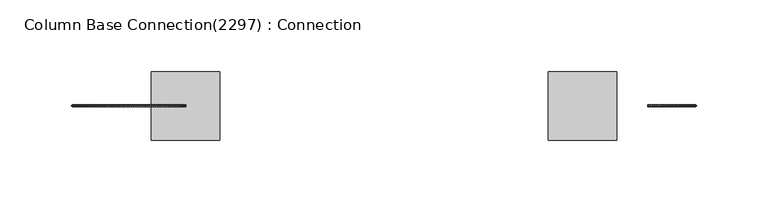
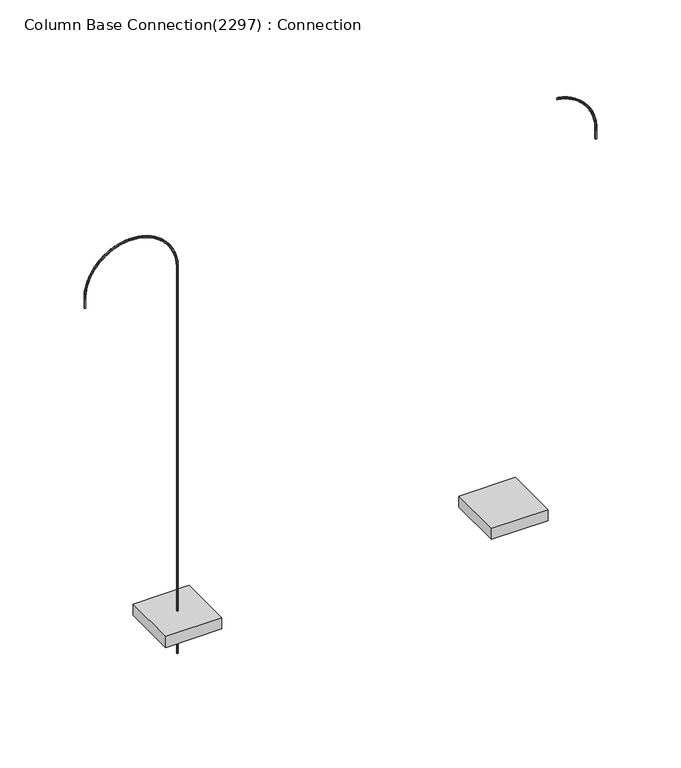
"""IFC4 building model written with IfcOpenShell, lengths in millimetres: fastener geometry, Column Base Connection(2297) : Connection."""

from ifc_helpers import new_model, si_unit, frame, origin, place, context, project, spatial, polyline, outline, extrude, source, transform, mapped, element, save


def column_base_connection_2297_connection_1b91c772(model_context):
    return source(origin(), model_context, "Body", "SweptSolid", [
        extrude(outline(polyline([(-163.0000027, 157.000001), (-115.0000027, 157.000001), (-115.0000027, 109.000001), (-163.0000027, 109.000001), (-163.0000027, 157.000001)])), frame((0.0, 0.0, -50.0), z_axis=(0.0, 0.0, 1.0), x_axis=(1.0, 0.0, 0.0)), (0.0, 0.0, 1.0), 10.0),
        extrude(outline(polyline([(-217.4575041, 132.3071807), (-218.2575041, 132.3071807), (-218.6575041, 133.000001), (-218.2575041, 133.6928213), (-217.4575041, 133.6928213), (-217.0575041, 133.000001), (-217.4575041, 132.3071807)])), frame((0.0, 0.0, 260.4), z_axis=(0.0, 0.0, 1.0), x_axis=(1.0, 0.0, 0.0)), (0.0, 0.0, 1.0), 8.0),
        extrude(outline(polyline([(-217.4575041, 132.3071807), (-218.2575041, 132.3071807), (-218.6575041, 133.000001), (-218.2575041, 133.6928213), (-217.4575041, 133.6928213), (-217.0575041, 133.000001), (-217.4575041, 132.3071807)])), frame((0.0, 0.0, 268.3681696), z_axis=(0.0, 0.0, 1.0), x_axis=(1.0, 0.0, 0.0)), (0.0, 0.0, 1.0), 1.6),
        extrude(outline(polyline([(0.0, 0.0), (0.8000001, 0.0), (1.2, -0.6928203), (0.8000001, -1.3856406), (0.0, -1.3856406), (-0.3999999, -0.6928203), (0.0, 0.0)])), frame((-217.4590858, 132.3071807, 269.9204618), z_axis=(0.03975651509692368, 0.0, 0.999209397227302), x_axis=(-0.999209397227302, 0.0, 0.03975651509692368)), (0.0, 0.0, 1.0), 1.6),
        extrude(outline(polyline([(0.0, 0.0), (0.7999999, 0.0), (1.2, -0.6928203), (0.7999999, -1.3856406), (0.0, -1.3856406), (-0.4000001, -0.6928203), (0.0, 0.0)])), frame((-217.3989526, 132.3071807, 271.4715896), z_axis=(0.07945016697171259, 0.0, 0.996838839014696), x_axis=(-0.996838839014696, 0.0, 0.07945016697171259)), (0.0, 0.0, 1.0), 1.6),
        extrude(outline(polyline([(0.0, 0.0), (0.8, 0.0), (1.2, -0.6928203), (0.8, -1.3856406), (0.0, -1.3856406), (-0.4, -0.6928203), (0.0, 0.0)])), frame((-217.2771994, 132.3071807, 273.0191004), z_axis=(0.11901819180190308, 0.0, 0.9928920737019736), x_axis=(-0.9928920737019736, 0.0, 0.11901819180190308)), (0.0, 0.0, 1.0), 1.6),
        extrude(outline(polyline([(0.0, 0.0), (0.8, 0.0), (1.2000001, -0.6928203), (0.8, -1.3856406), (0.0, -1.3856406), (-0.4, -0.6928203), (0.0, 0.0)])), frame((-217.0940188, 132.3071807, 274.5605473), z_axis=(0.15839802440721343, 0.0, 0.9873753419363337), x_axis=(-0.9873753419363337, 0.0, 0.15839802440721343)), (0.0, 0.0, 1.0), 1.6),
        extrude(outline(polyline([(0.0, 0.0), (0.8, 0.0), (1.2, -0.6928203), (0.8, -1.3856406), (0.0, -1.3856406), (-0.4, -0.6928203), (0.0, 0.0)])), frame((-216.8497006, 132.3071807, 276.0934928), z_axis=(0.19752739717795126, 0.0, 0.9802973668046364), x_axis=(-0.9802973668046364, 0.0, 0.19752739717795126)), (0.0, 0.0, 1.0), 1.6),
        extrude(outline(polyline([(0.0, 0.0), (0.8, 0.0), (1.2, -0.6928203), (0.8, -1.3856406), (0.0, -1.3856406), (-0.4000001, -0.6928203), (0.0, 0.0)])), frame((-216.5446309, 132.3071807, 277.6155132), z_axis=(0.23634443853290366, 0.0, 0.9716693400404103), x_axis=(-0.9716693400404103, 0.0, 0.23634443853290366)), (0.0, 0.0, 1.0), 1.6),
        extrude(outline(polyline([(0.0, 0.0), (0.8, 0.0), (1.1999999, -0.6928203), (0.8, -1.3856406), (0.0, -1.3856406), (-0.4, -0.6928203), (0.0, 0.0)])), frame((-216.1792922, 132.3071807, 279.1242018), z_axis=(0.2747877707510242, 0.0, 0.9615049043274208), x_axis=(-0.9615049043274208, 0.0, 0.2747877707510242)), (0.0, 0.0, 1.0), 1.6),
        extrude(outline(polyline([(0.0, 0.0), (0.8, 0.0), (1.2, -0.6928203), (0.8, -1.3856406), (0.0, -1.3856406), (-0.4, -0.6928203), (0.0, 0.0)])), frame((-215.7542621, 132.3071807, 280.6171729), z_axis=(0.31279660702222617, 0.0, 0.949820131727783), x_axis=(-0.949820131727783, 0.0, 0.31279660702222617)), (0.0, 0.0, 1.0), 1.6),
        extrude(outline(polyline([(0.0, 0.0), (0.8, 0.0), (1.2, -0.6928203), (0.8, -1.3856406), (0.0, -1.3856406), (-0.4, -0.6928203), (0.0, 0.0)])), frame((-215.2702127, 132.3071807, 282.0920661), z_axis=(0.3503108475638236, 0.0, 0.9366334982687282), x_axis=(-0.9366334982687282, 0.0, 0.3503108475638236)), (0.0, 0.0, 1.0), 1.6),
        extrude(outline(polyline([(0.0, 0.0), (0.7999999, 0.0), (1.2, -0.6928203), (0.7999999, -1.3856406), (0.0, -1.3856406), (-0.4000001, -0.6928203), (0.0, 0.0)])), frame((-214.7279094, 132.3071807, 283.546549), z_axis=(0.38727117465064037, 0.0, 0.921965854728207), x_axis=(-0.921965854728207, 0.0, 0.38727117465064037)), (0.0, 0.0, 1.0), 1.6),
        extrude(outline(polyline([(0.0, 0.0), (0.8, 0.0), (1.2, -0.6928203), (0.8, -1.3856406), (0.0, -1.3856406), (-0.3999999, -0.6928203), (0.0, 0.0)])), frame((-214.1282096, 132.3071807, 284.9783219), z_axis=(0.4236191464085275, 0.0, 0.9058403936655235), x_axis=(-0.9058403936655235, 0.0, 0.4236191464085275)), (0.0, 0.0, 1.0), 1.6),
        extrude(outline(polyline([(0.0, 0.0), (0.8, 0.0), (1.2, -0.6928203), (0.8, -1.3856406), (0.0, -1.3856406), (-0.4, -0.6928203), (0.0, 0.0)])), frame((-213.4720617, 132.3071807, 286.3851209), z_axis=(0.45929728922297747, 0.0, 0.8882826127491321), x_axis=(-0.8882826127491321, 0.0, 0.45929728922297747)), (0.0, 0.0, 1.0), 1.6),
        extrude(outline(polyline([(0.0, 0.0), (0.8, 0.0), (1.2, -0.6928203), (0.8, -1.3856406), (0.0, -1.3856406), (-0.4, -0.6928203), (0.0, 0.0)])), frame((-212.7605031, 132.3071807, 287.7647216), z_axis=(0.4942491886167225, 0.0, 0.8693202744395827), x_axis=(-0.8693202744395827, 0.0, 0.4942491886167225)), (0.0, 0.0, 1.0), 1.6),
        extrude(outline(polyline([(0.0, 0.0), (0.8, 0.0), (1.2, -0.6928203), (0.8, -1.3856406), (0.0, -1.3856406), (-0.4, -0.6928203), (0.0, 0.0)])), frame((-211.994659, 132.3071807, 289.1149424), z_axis=(0.5284195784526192, 0.0, 0.848983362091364), x_axis=(-0.848983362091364, 0.0, 0.5284195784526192)), (0.0, 0.0, 1.0), 1.6),
        extrude(outline(polyline([(0.0, 0.0), (0.8000001, 0.0), (1.2, -0.6928203), (0.8000001, -1.3856406), (0.0, -1.3856406), (-0.3999999, -0.6928203), (0.0, 0.0)])), frame((-211.1757402, 132.3071807, 290.4336484), z_axis=(0.5617544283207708, 0.0, 0.8273040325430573), x_axis=(-0.8273040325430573, 0.0, 0.5617544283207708)), (0.0, 0.0, 1.0), 1.6),
        extrude(outline(polyline([(0.0, 0.0), (0.8, 0.0), (1.2000001, -0.6928203), (0.8, -1.3856406), (0.0, -1.3856406), (-0.4, -0.6928203), (0.0, 0.0)])), frame((-210.3050418, 132.3071807, 291.7187545), z_axis=(0.5942010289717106, 0.0, 0.8043165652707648), x_axis=(-0.8043165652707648, 0.0, 0.5942010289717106)), (0.0, 0.0, 1.0), 1.6),
        extrude(outline(polyline([(0.0, 0.0), (0.8, 0.0), (1.2, -0.6928203), (0.8, -1.3856406), (0.0, -1.3856406), (-0.4, -0.6928203), (0.0, 0.0)])), frame((-209.3839404, 132.3071807, 292.9682287), z_axis=(0.6257080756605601, 0.0, 0.780057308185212), x_axis=(-0.780057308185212, 0.0, 0.6257080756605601)), (0.0, 0.0, 1.0), 1.6),
        extrude(outline(polyline([(0.0, 0.0), (0.8, 0.0), (1.2, -0.6928203), (0.8, -1.3856406), (0.0, -1.3856406), (-0.4, -0.6928203), (0.0, 0.0)])), frame((-208.4138924, 132.3071807, 294.1800953), z_axis=(0.6562257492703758, 0.0, 0.75456462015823), x_axis=(-0.75456462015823, 0.0, 0.6562257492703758)), (0.0, 0.0, 1.0), 1.6),
        extrude(outline(polyline([(0.0, 0.0), (0.8, 0.0), (1.2, -0.6928203), (0.8, -1.3856406), (0.0, -1.3856406), (-0.4, -0.6928203), (0.0, 0.0)])), frame((-207.3964318, 132.3071807, 295.352438), z_axis=(0.6857057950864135, 0.0, 0.7278788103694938), x_axis=(-0.7278788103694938, 0.0, 0.6857057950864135)), (0.0, 0.0, 1.0), 1.6),
        extrude(outline(polyline([(0.0, 0.0), (0.8, 0.0), (1.2000001, -0.6928203), (0.8, -1.3856406), (0.0, -1.3856406), (-0.4, -0.6928203), (0.0, 0.0)])), frame((-206.3331674, 132.3071807, 296.4834031), z_axis=(0.7141015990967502, 0.0, 0.7000420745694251), x_axis=(-0.7000420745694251, 0.0, 0.7141015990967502)), (0.0, 0.0, 1.0), 1.6),
        extrude(outline(polyline([(0.0, 0.0), (0.8, 0.0), (1.2, -0.6928203), (0.8, -1.3856406), (0.0, -1.3856406), (-0.4, -0.6928203), (0.0, 0.0)])), frame((-205.2257803, 132.3071807, 297.5712025), z_axis=(0.7413682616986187, 0.0, 0.6710984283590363), x_axis=(-0.6710984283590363, 0.0, 0.7413682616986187)), (0.0, 0.0, 1.0), 1.6),
        extrude(outline(polyline([(0.0, 0.0), (0.8, 0.0), (1.2, -0.6928203), (0.8, -1.3856406), (0.0, -1.3856406), (-0.4, -0.6928203), (0.0, 0.0)])), frame((-204.0760216, 132.3071807, 298.614116), z_axis=(0.7674626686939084, 0.0, 0.6410936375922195), x_axis=(-0.6410936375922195, 0.0, 0.7674626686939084)), (0.0, 0.0, 1.0), 1.6),
        extrude(outline(polyline([(0.0, 0.0), (0.8, 0.0), (1.2, -0.6928203), (0.8, -1.3856406), (0.0, -1.3856406), (-0.3999999, -0.6928203), (0.0, 0.0)])), frame((-202.8857093, 132.3071807, 299.6104945), z_axis=(0.792343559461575, 0.0, 0.6100751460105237), x_axis=(-0.6100751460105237, 0.0, 0.792343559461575)), (0.0, 0.0, 1.0), 1.6),
        extrude(outline(polyline([(0.0, 0.0), (0.8, 0.0), (1.2, -0.6928203), (0.8, -1.3856406), (0.0, -1.3856406), (-0.4, -0.6928203), (0.0, 0.0)])), frame((-201.6567256, 132.3071807, 300.5587626), z_axis=(0.8159715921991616, 0.0, 0.5780920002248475), x_axis=(-0.5780920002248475, 0.0, 0.8159715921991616)), (0.0, 0.0, 1.0), 1.6),
        extrude(outline(polyline([(0.0, 0.0), (0.8, 0.0), (1.2, -0.6928203), (0.8, -1.3856406), (0.0, -1.3856406), (-0.4, -0.6928203), (0.0, 0.0)])), frame((-200.3910136, 132.3071807, 301.457421), z_axis=(0.8383094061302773, 0.0, 0.5451947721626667), x_axis=(-0.5451947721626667, 0.0, 0.8383094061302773)), (0.0, 0.0, 1.0), 1.6),
        extrude(outline(polyline([(0.0, 0.0), (0.8, 0.0), (1.2, -0.6928203), (0.8, -1.3856406), (0.0, -1.3856406), (-0.4, -0.6928203), (0.0, 0.0)])), frame((-199.0905748, 132.3071807, 302.3050485), z_axis=(0.8593216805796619, 0.0, 0.511435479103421), x_axis=(-0.511435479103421, 0.0, 0.8593216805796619)), (0.0, 0.0, 1.0), 1.6),
        extrude(outline(polyline([(0.0, 0.0), (0.8, 0.0), (1.2, -0.6928203), (0.8, -1.3856406), (0.0, -1.3856406), (-0.4, -0.6928203), (0.0, 0.0)])), frame((-197.7574655, 132.3071807, 303.100305), z_axis=(0.8789751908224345, 0.0, 0.47686750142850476), x_axis=(-0.47686750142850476, 0.0, 0.8789751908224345)), (0.0, 0.0, 1.0), 1.6),
        extrude(outline(polyline([(0.0, 0.0), (0.7999999, 0.0), (1.2, -0.6928203), (0.7999999, -1.3856406), (0.0, -1.3856406), (-0.4000001, -0.6928203), (0.0, 0.0)])), frame((-196.3937934, 132.3071807, 303.841933), z_axis=(0.897238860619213, 0.0, 0.44154549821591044), x_axis=(-0.44154549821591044, 0.0, 0.897238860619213)), (0.0, 0.0, 1.0), 1.6),
        extrude(outline(polyline([(0.0, 0.0), (0.8, 0.0), (1.1999999, -0.6928203), (0.8, -1.3856406), (0.0, -1.3856406), (-0.4000001, -0.6928203), (0.0, 0.0)])), frame((-195.0017149, 132.3071807, 304.5287598), z_axis=(0.9140838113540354, 0.0, 0.4055253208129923), x_axis=(-0.4055253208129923, 0.0, 0.9140838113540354)), (0.0, 0.0, 1.0), 1.6),
        extrude(outline(polyline([(0.0, 0.0), (0.8000001, 0.0), (1.2, -0.6928203), (0.8000001, -1.3856406), (0.0, -1.3856406), (-0.4, -0.6928203), (0.0, 0.0)])), frame((-193.5834312, 132.3071807, 305.1596993), z_axis=(0.9294834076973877, 0.0, 0.36886392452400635), x_axis=(-0.36886392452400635, 0.0, 0.9294834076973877)), (0.0, 0.0, 1.0), 1.6),
        extrude(outline(polyline([(0.0, 0.0), (0.8, 0.0), (1.2, -0.6928203), (0.8, -1.3856406), (0.0, -1.3856406), (-0.4, -0.6928203), (0.0, 0.0)])), frame((-192.1411848, 132.3071807, 305.7337541), z_axis=(0.9434132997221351, 0.0, 0.3316192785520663), x_axis=(-0.3316192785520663, 0.0, 0.9434132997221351)), (0.0, 0.0, 1.0), 1.6),
        extrude(outline(polyline([(0.0, 0.0), (0.8000001, 0.0), (1.2000001, -0.6928203), (0.8000001, -1.3856406), (0.0, -1.3856406), (-0.4, -0.6928203), (0.0, 0.0)])), frame((-190.6772562, 132.3071807, 306.2500163), z_axis=(0.9558514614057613, 0.0, 0.29385027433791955), x_axis=(-0.29385027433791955, 0.0, 0.9558514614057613)), (0.0, 0.0, 1.0), 1.6),
        extrude(outline(polyline([(0.0, 0.0), (0.8, 0.0), (1.1999999, -0.6928203), (0.8, -1.3856406), (0.0, -1.3856406), (-0.4, -0.6928203), (0.0, 0.0)])), frame((-189.1939603, 132.3071807, 306.7076697), z_axis=(0.9667782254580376, 0.0, 0.2556166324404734), x_axis=(-0.2556166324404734, 0.0, 0.9667782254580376)), (0.0, 0.0, 1.0), 1.6),
        extrude(outline(polyline([(0.0, 0.0), (0.8000001, 0.0), (1.2, -0.6928203), (0.8000001, -1.3856406), (0.0, -1.3856406), (-0.4, -0.6928203), (0.0, 0.0)])), frame((-187.6936423, 132.3071807, 307.1059905), z_axis=(0.9761763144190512, 0.0, 0.21697880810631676), x_axis=(-0.21697880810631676, 0.0, 0.9761763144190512)), (0.0, 0.0, 1.0), 1.6),
        extrude(outline(polyline([(0.0, 0.0), (0.8, 0.0), (1.2, -0.6928203), (0.8, -1.3856406), (0.0, -1.3856406), (-0.4, -0.6928203), (0.0, 0.0)])), frame((-186.1786746, 132.3071807, 307.4443491), z_axis=(0.9840308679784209, 0.0, 0.17799789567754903), x_axis=(-0.17799789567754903, 0.0, 0.9840308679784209)), (0.0, 0.0, 1.0), 1.6),
        extrude(outline(polyline([(0.0, 0.0), (0.7999999, 0.0), (1.1999999, -0.6928203), (0.7999999, -1.3856406), (0.0, -1.3856406), (-0.4, -0.6928203), (0.0, 0.0)])), frame((-184.6514528, 132.3071807, 307.7222103), z_axis=(0.9903294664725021, 0.0, 0.13873553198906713), x_axis=(-0.13873553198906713, 0.0, 0.9903294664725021)), (0.0, 0.0, 1.0), 1.6),
        extrude(outline(polyline([(0.0, 0.0), (0.8000001, 0.0), (1.2, -0.6928203), (0.8000001, -1.3856406), (0.0, -1.3856406), (-0.3999999, -0.6928203), (0.0, 0.0)])), frame((-183.1143915, 132.3071807, 307.9391347), z_axis=(0.9950621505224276, 0.0, 0.09925379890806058), x_axis=(-0.09925379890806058, 0.0, 0.9950621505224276)), (0.0, 0.0, 1.0), 1.6),
        extrude(outline(polyline([(0.0, 0.0), (0.8000001, 0.0), (1.2000001, -0.6928203), (0.8000001, -1.3856406), (0.0, -1.3856406), (-0.3999999, -0.6928203), (0.0, 0.0)])), frame((-181.5699213, 132.3071807, 308.0947795), z_axis=(0.9982214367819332, 0.0, 0.05961512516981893), x_axis=(-0.05961512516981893, 0.0, 0.9982214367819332)), (0.0, 0.0, 1.0), 1.6),
        extrude(outline(polyline([(0.0, 0.0), (0.8, 0.0), (1.2, -0.6928203), (0.8, -1.3856406), (0.0, -1.3856406), (-0.4, -0.6928203), (0.0, 0.0)])), frame((-180.0204843, 132.3071807, 308.1888985), z_axis=(0.9998023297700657, 0.0, 0.019882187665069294), x_axis=(-0.019882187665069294, 0.0, 0.9998023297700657)), (0.0, 0.0, 1.0), 1.6),
        extrude(outline(polyline([(0.0, 0.0), (0.4, -0.6928203), (0.0, -1.3856406), (-0.7999999, -1.3856406), (-1.2, -0.6928203), (-0.7999999, 0.0), (0.0, 0.0)])), frame((-176.8688466, 132.3071807, 308.1895314), z_axis=(-0.9998023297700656, 0.0, 0.019882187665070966), x_axis=(-0.019882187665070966, 0.0, -0.9998023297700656)), (0.0, 0.0, 1.0), 1.6),
        extrude(outline(polyline([(0.0, 0.0), (0.4, -0.6928203), (0.0, -1.3856406), (-0.8000001, -1.3856406), (-1.2, -0.6928203), (-0.8000001, 0.0), (0.0, 0.0)])), frame((-175.3193593, 132.3071807, 308.0966771), z_axis=(-0.9982214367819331, 0.0, 0.0596151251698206), x_axis=(-0.0596151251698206, 0.0, -0.9982214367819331)), (0.0, 0.0, 1.0), 1.6),
        extrude(outline(polyline([(0.0, 0.0), (0.3999999, -0.6928203), (0.0, -1.3856406), (-0.8000001, -1.3856406), (-1.2, -0.6928203), (-0.8000001, 0.0), (0.0, 0.0)])), frame((-173.7747885, 132.3071807, 307.942294), z_axis=(-0.9950621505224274, 0.0, 0.09925379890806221), x_axis=(-0.09925379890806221, 0.0, -0.9950621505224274)), (0.0, 0.0, 1.0), 1.6),
        extrude(outline(polyline([(0.0, 0.0), (0.4, -0.6928203), (0.0, -1.3856406), (-0.7999999, -1.3856406), (-1.1999999, -0.6928203), (-0.7999999, 0.0), (0.0, 0.0)])), frame((-172.2375766, 132.3071807, 307.7266263), z_axis=(-0.9903294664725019, 0.0, 0.13873553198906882), x_axis=(-0.13873553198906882, 0.0, -0.9903294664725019)), (0.0, 0.0, 1.0), 1.6),
        extrude(outline(polyline([(0.0, 0.0), (0.3999999, -0.6928203), (0.0, -1.3856406), (-0.8, -1.3856406), (-1.2000001, -0.6928203), (-0.8, 0.0), (0.0, 0.0)])), frame((-170.7101543, 132.3071807, 307.4500148), z_axis=(-0.9840308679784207, 0.0, 0.17799789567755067), x_axis=(-0.17799789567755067, 0.0, -0.9840308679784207)), (0.0, 0.0, 1.0), 1.6),
        extrude(outline(polyline([(0.0, 0.0), (0.4000001, -0.6928203), (0.0, -1.3856406), (-0.8, -1.3856406), (-1.1999999, -0.6928203), (-0.8, 0.0), (0.0, 0.0)])), frame((-169.1949366, 132.3071807, 307.1128971), z_axis=(-0.9761763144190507, 0.0, 0.2169788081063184), x_axis=(-0.2169788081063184, 0.0, -0.9761763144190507)), (0.0, 0.0, 1.0), 1.6),
        extrude(outline(polyline([(0.0, 0.0), (0.4, -0.6928203), (0.0, -1.3856406), (-0.7999999, -1.3856406), (-1.1999999, -0.6928203), (-0.7999999, 0.0), (0.0, 0.0)])), frame((-167.6943195, 132.3071807, 306.7158061), z_axis=(-0.9667782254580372, 0.0, 0.255616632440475), x_axis=(-0.255616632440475, 0.0, -0.9667782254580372)), (0.0, 0.0, 1.0), 1.6),
        extrude(outline(polyline([(0.0, 0.0), (0.4, -0.6928203), (0.0, -1.3856406), (-0.8, -1.3856406), (-1.1999999, -0.6928203), (-0.8, 0.0), (0.0, 0.0)])), frame((-166.2106757, 132.3071807, 306.2593697), z_axis=(-0.9558514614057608, 0.0, 0.2938502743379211), x_axis=(-0.2938502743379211, 0.0, -0.9558514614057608)), (0.0, 0.0, 1.0), 1.6),
        extrude(outline(polyline([(0.0, 0.0), (0.4000001, -0.6928203), (0.0, -1.3856406), (-0.8, -1.3856406), (-1.1999999, -0.6928203), (-0.8, 0.0), (0.0, 0.0)])), frame((-164.7463512, 132.3071807, 305.7443097), z_axis=(-0.9434132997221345, 0.0, 0.33161927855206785), x_axis=(-0.33161927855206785, 0.0, -0.9434132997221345)), (0.0, 0.0, 1.0), 1.6),
        extrude(outline(polyline([(0.0, 0.0), (0.4, -0.6928203), (0.0, -1.3856406), (-0.8000001, -1.3856406), (-1.2, -0.6928203), (-0.8000001, 0.0), (0.0, 0.0)])), frame((-163.3036614, 132.3071807, 305.1714404), z_axis=(-0.929483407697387, 0.0, 0.36886392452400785), x_axis=(-0.36886392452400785, 0.0, -0.929483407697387)), (0.0, 0.0, 1.0), 1.6),
        extrude(outline(polyline([(0.0, 0.0), (0.4000001, -0.6928203), (0.0, -1.3856406), (-0.7999999, -1.3856406), (-1.1999999, -0.6928203), (-0.7999999, 0.0), (0.0, 0.0)])), frame((-161.8848875, 132.3071807, 304.5416678), z_axis=(-0.9140838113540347, 0.0, 0.4055253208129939), x_axis=(-0.4055253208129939, 0.0, -0.9140838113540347)), (0.0, 0.0, 1.0), 1.6),
        extrude(outline(polyline([(0.0, 0.0), (0.4, -0.6928203), (0.0, -1.3856406), (-0.8, -1.3856406), (-1.2, -0.6928203), (-0.8, 0.0), (0.0, 0.0)])), frame((-160.4922729, 132.3071807, 303.8559875), z_axis=(-0.8972388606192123, 0.0, 0.4415454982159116), x_axis=(-0.4415454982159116, 0.0, -0.8972388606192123)), (0.0, 0.0, 1.0), 1.6),
        extrude(outline(polyline([(0.0, 0.0), (0.4, -0.6928203), (0.0, -1.3856406), (-0.8, -1.3856406), (-1.2, -0.6928203), (-0.8, 0.0), (0.0, 0.0)])), frame((-159.1280195, 132.3071807, 303.1154839), z_axis=(-0.8789751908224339, 0.0, 0.4768675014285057), x_axis=(-0.4768675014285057, 0.0, -0.8789751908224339)), (0.0, 0.0, 1.0), 1.6),
        extrude(outline(polyline([(0.0, 0.0), (0.4, -0.6928203), (0.0, -1.3856406), (-0.8, -1.3856406), (-1.2, -0.6928203), (-0.8, 0.0), (0.0, 0.0)])), frame((-157.7942845, 132.3071807, 302.3213277), z_axis=(-0.8593216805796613, 0.0, 0.5114354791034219), x_axis=(-0.5114354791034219, 0.0, -0.8593216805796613)), (0.0, 0.0, 1.0), 1.6),
        extrude(outline(polyline([(0.0, 0.0), (0.4, -0.6928203), (0.0, -1.3856406), (-0.8, -1.3856406), (-1.2, -0.6928203), (-0.8, 0.0), (0.0, 0.0)])), frame((-156.4931769, 132.3071807, 301.4747747), z_axis=(-0.8383094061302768, 0.0, 0.5451947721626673), x_axis=(-0.5451947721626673, 0.0, -0.8383094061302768)), (0.0, 0.0, 1.0), 1.6),
        extrude(outline(polyline([(0.0, 0.0), (0.4, -0.6928203), (0.0, -1.3856406), (-0.8, -1.3856406), (-1.2, -0.6928203), (-0.8, 0.0), (0.0, 0.0)])), frame((-155.2267539, 132.3071807, 300.5771635), z_axis=(-0.8159715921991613, 0.0, 0.5780920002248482), x_axis=(-0.5780920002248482, 0.0, -0.8159715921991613)), (0.0, 0.0, 1.0), 1.6),
        extrude(outline(polyline([(0.0, 0.0), (0.3999999, -0.6928203), (0.0, -1.3856406), (-0.8, -1.3856406), (-1.2, -0.6928203), (-0.8, 0.0), (0.0, 0.0)])), frame((-153.9970181, 132.3071807, 299.6299134), z_axis=(-0.7923435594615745, 0.0, 0.6100751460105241), x_axis=(-0.6100751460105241, 0.0, -0.7923435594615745)), (0.0, 0.0, 1.0), 1.6),
        extrude(outline(polyline([(0.0, 0.0), (0.4000001, -0.6928203), (0.0, -1.3856406), (-0.8, -1.3856406), (-1.2, -0.6928203), (-0.8, 0.0), (0.0, 0.0)])), frame((-152.8059138, 132.3071807, 298.6345222), z_axis=(-0.7674626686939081, 0.0, 0.6410936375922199), x_axis=(-0.6410936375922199, 0.0, -0.7674626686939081)), (0.0, 0.0, 1.0), 1.6),
        extrude(outline(polyline([(0.0, 0.0), (0.3999999, -0.6928203), (0.0, -1.3856406), (-0.8, -1.3856406), (-1.2, -0.6928203), (-0.8, 0.0), (0.0, 0.0)])), frame((-151.6553246, 132.3071807, 297.5925638), z_axis=(-0.7413682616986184, 0.0, 0.6710984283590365), x_axis=(-0.6710984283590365, 0.0, -0.7413682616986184)), (0.0, 0.0, 1.0), 1.6),
        extrude(outline(polyline([(0.0, 0.0), (0.4, -0.6928203), (0.0, -1.3856406), (-0.8, -1.3856406), (-1.2, -0.6928203), (-0.8, 0.0), (0.0, 0.0)])), frame((-150.5470696, 132.3071807, 296.5056858), z_axis=(-0.7141015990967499, 0.0, 0.7000420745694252), x_axis=(-0.7000420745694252, 0.0, -0.7141015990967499)), (0.0, 0.0, 1.0), 1.6),
        extrude(outline(polyline([(0.0, 0.0), (0.4, -0.6928203), (0.0, -1.3856406), (-0.8000001, -1.3856406), (-1.2000001, -0.6928203), (-0.8000001, 0.0), (0.0, 0.0)])), frame((-149.4829013, 132.3071807, 295.3756066), z_axis=(-0.6857057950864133, 0.0, 0.727878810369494), x_axis=(-0.727878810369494, 0.0, -0.6857057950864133)), (0.0, 0.0, 1.0), 1.6),
        extrude(outline(polyline([(0.0, 0.0), (0.4, -0.6928203), (0.0, -1.3856406), (-0.8, -1.3856406), (-1.2, -0.6928203), (-0.8, 0.0), (0.0, 0.0)])), frame((-148.4645023, 132.3071807, 294.2041133), z_axis=(-0.6562257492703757, 0.0, 0.75456462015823), x_axis=(-0.75456462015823, 0.0, -0.6562257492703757)), (0.0, 0.0, 1.0), 1.6),
        extrude(outline(polyline([(0.0, 0.0), (0.4, -0.6928203), (0.0, -1.3856406), (-0.8000001, -1.3856406), (-1.2, -0.6928203), (-0.8000001, 0.0), (0.0, 0.0)])), frame((-147.493483, 132.3071807, 292.9930582), z_axis=(-0.6257080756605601, 0.0, 0.780057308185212), x_axis=(-0.780057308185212, 0.0, -0.6257080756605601)), (0.0, 0.0, 1.0), 1.6),
        extrude(outline(polyline([(0.0, 0.0), (0.4, -0.6928203), (0.0, -1.3856406), (-0.8000001, -1.3856406), (-1.2000001, -0.6928203), (-0.8000001, 0.0), (0.0, 0.0)])), frame((-146.5713787, 132.3071807, 291.7443562), z_axis=(-0.5942010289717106, 0.0, 0.8043165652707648), x_axis=(-0.8043165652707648, 0.0, -0.5942010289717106)), (0.0, 0.0, 1.0), 1.6),
        extrude(outline(polyline([(0.0, 0.0), (0.4, -0.6928203), (0.0, -1.3856406), (-0.8, -1.3856406), (-1.2, -0.6928203), (-0.8, 0.0), (0.0, 0.0)])), frame((-145.6996474, 132.3071807, 290.4599818), z_axis=(-0.561754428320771, 0.0, 0.8273040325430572), x_axis=(-0.8273040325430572, 0.0, -0.561754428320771)), (0.0, 0.0, 1.0), 1.6),
        extrude(outline(polyline([(0.0, 0.0), (0.4000001, -0.6928203), (0.0, -1.3856406), (-0.7999999, -1.3856406), (-1.1999999, -0.6928203), (-0.7999999, 0.0), (0.0, 0.0)])), frame((-144.8796676, 132.3071807, 289.1419659), z_axis=(-0.5284195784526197, 0.0, 0.8489833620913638), x_axis=(-0.8489833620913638, 0.0, -0.5284195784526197)), (0.0, 0.0, 1.0), 1.6),
        extrude(outline(polyline([(0.0, 0.0), (0.4000001, -0.6928203), (0.0, -1.3856406), (-0.8, -1.3856406), (-1.2, -0.6928203), (-0.8, 0.0), (0.0, 0.0)])), frame((-144.1127358, 132.3071807, 287.7923924), z_axis=(-0.49424918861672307, 0.0, 0.8693202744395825), x_axis=(-0.8693202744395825, 0.0, -0.49424918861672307)), (0.0, 0.0, 1.0), 1.6),
        extrude(outline(polyline([(0.0, 0.0), (0.4, -0.6928203), (0.0, -1.3856406), (-0.8, -1.3856406), (-1.2, -0.6928203), (-0.8, 0.0), (0.0, 0.0)])), frame((-143.4000647, 132.3071807, 286.4133953), z_axis=(-0.459297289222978, 0.0, 0.8882826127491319), x_axis=(-0.8882826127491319, 0.0, -0.459297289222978)), (0.0, 0.0, 1.0), 1.6),
        extrude(outline(polyline([(0.0, 0.0), (0.4, -0.6928203), (0.0, -1.3856406), (-0.8000001, -1.3856406), (-1.2, -0.6928203), (-0.8000001, 0.0), (0.0, 0.0)])), frame((-142.7427812, 132.3071807, 285.0071552), z_axis=(-0.4236191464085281, 0.0, 0.9058403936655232), x_axis=(-0.9058403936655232, 0.0, -0.4236191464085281)), (0.0, 0.0, 1.0), 1.6),
        extrude(outline(polyline([(0.0, 0.0), (0.3999999, -0.6928203), (0.0, -1.3856406), (-0.8, -1.3856406), (-1.2000001, -0.6928203), (-0.8, 0.0), (0.0, 0.0)])), frame((-142.1419245, 132.3071807, 283.5758955), z_axis=(-0.3872711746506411, 0.0, 0.9219658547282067), x_axis=(-0.9219658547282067, 0.0, -0.3872711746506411)), (0.0, 0.0, 1.0), 1.6),
        extrude(outline(polyline([(0.0, 0.0), (0.4, -0.6928203), (0.0, -1.3856406), (-0.8, -1.3856406), (-1.2, -0.6928203), (-0.8, 0.0), (0.0, 0.0)])), frame((-141.5984447, 132.3071807, 282.1218795), z_axis=(-0.3503108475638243, 0.0, 0.9366334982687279), x_axis=(-0.9366334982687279, 0.0, -0.3503108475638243)), (0.0, 0.0, 1.0), 1.6),
        extrude(outline(polyline([(0.0, 0.0), (0.4, -0.6928203), (0.0, -1.3856406), (-0.8, -1.3856406), (-1.2, -0.6928203), (-0.8, 0.0), (0.0, 0.0)])), frame((-141.1132012, 132.3071807, 280.6474061), z_axis=(-0.3127966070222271, 0.0, 0.9498201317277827), x_axis=(-0.9498201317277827, 0.0, -0.3127966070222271)), (0.0, 0.0, 1.0), 1.6),
        extrude(outline(polyline([(0.0, 0.0), (0.3999999, -0.6928203), (0.0, -1.3856406), (-0.8000001, -1.3856406), (-1.2, -0.6928203), (-0.8000001, 0.0), (0.0, 0.0)])), frame((-140.6869613, 132.3071807, 279.1548068), z_axis=(-0.2747877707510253, 0.0, 0.9615049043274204), x_axis=(-0.9615049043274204, 0.0, -0.2747877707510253)), (0.0, 0.0, 1.0), 1.6),
        extrude(outline(polyline([(0.0, 0.0), (0.4, -0.6928203), (0.0, -1.3856406), (-0.8, -1.3856406), (-1.2, -0.6928203), (-0.8, 0.0), (0.0, 0.0)])), frame((-140.3203989, 132.3071807, 277.6464418), z_axis=(-0.23634443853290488, 0.0, 0.9716693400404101), x_axis=(-0.9716693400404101, 0.0, -0.23634443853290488)), (0.0, 0.0, 1.0), 1.6),
        extrude(outline(polyline([(0.0, 0.0), (0.4000001, -0.6928203), (0.0, -1.3856406), (-0.8, -1.3856406), (-1.2, -0.6928203), (-0.8, 0.0), (0.0, 0.0)])), frame((-140.0140936, 132.3071807, 276.1246961), z_axis=(-0.1975273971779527, 0.0, 0.9802973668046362), x_axis=(-0.9802973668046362, 0.0, -0.1975273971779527)), (0.0, 0.0, 1.0), 1.6),
        extrude(outline(polyline([(0.0, 0.0), (0.4000001, -0.6928203), (0.0, -1.3856406), (-0.7999999, -1.3856406), (-1.2, -0.6928203), (-0.7999999, 0.0), (0.0, 0.0)])), frame((-139.7685298, 132.3071807, 274.5919758), z_axis=(-0.158398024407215, 0.0, 0.9873753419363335), x_axis=(-0.9873753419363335, 0.0, -0.158398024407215)), (0.0, 0.0, 1.0), 1.6),
        extrude(outline(polyline([(0.0, 0.0), (0.4000001, -0.6928203), (0.0, -1.3856406), (-0.7999999, -1.3856406), (-1.2, -0.6928203), (-0.7999999, 0.0), (0.0, 0.0)])), frame((-139.5840958, 132.3071807, 273.0507046), z_axis=(-0.1190181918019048, 0.0, 0.9928920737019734), x_axis=(-0.9928920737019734, 0.0, -0.1190181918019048)), (0.0, 0.0, 1.0), 1.6),
        extrude(outline(polyline([(0.0, 0.0), (0.4, -0.6928203), (0.0, -1.3856406), (-0.8, -1.3856406), (-1.2, -0.6928203), (-0.8, 0.0), (0.0, 0.0)])), frame((-139.4610832, 132.3071807, 271.5033194), z_axis=(-0.07945016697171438, 0.0, 0.9968388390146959), x_axis=(-0.9968388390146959, 0.0, -0.07945016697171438)), (0.0, 0.0, 1.0), 1.6),
        extrude(outline(polyline([(0.0, 0.0), (0.3999999, -0.6928203), (0.0, -1.3856406), (-0.8000001, -1.3856406), (-1.2, -0.6928203), (-0.8000001, 0.0), (0.0, 0.0)])), frame((-139.3996865, 132.3071807, 269.952267), z_axis=(-0.03975651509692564, 0.0, 0.999209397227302), x_axis=(-0.999209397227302, 0.0, -0.03975651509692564)), (0.0, 0.0, 1.0), 1.6),
        extrude(outline(polyline([(-139.4000027, 132.3071807), (-139.8000027, 133.000001), (-139.4000027, 133.6928213), (-138.6000027, 133.6928213), (-138.2000027, 133.000001), (-138.6000027, 132.3071807), (-139.4000027, 132.3071807)])), frame((0.0, 0.0, -78.0), z_axis=(0.0, 0.0, 1.0), x_axis=(1.0, 0.0, 0.0)), (0.0, 0.0, 1.0), 348.0),
        extrude(outline(polyline([(115.0000027, 157.000001), (163.0000027, 157.000001), (163.0000027, 109.000001), (115.0000027, 109.000001), (115.0000027, 157.000001)])), frame((0.0, 0.0, -50.0), z_axis=(0.0, 0.0, 1.0), x_axis=(1.0, 0.0, 0.0)), (0.0, 0.0, 1.0), 10.0),
        extrude(outline(polyline([(218.2575041, 132.3071807), (217.4575041, 132.3071807), (217.0575041, 133.000001), (217.4575041, 133.6928213), (218.2575041, 133.6928213), (218.6575041, 133.000001), (218.2575041, 132.3071807)])), frame((0.0, 0.0, 260.4), z_axis=(0.0, 0.0, 1.0), x_axis=(1.0, 0.0, 0.0)), (0.0, 0.0, 1.0), 8.0),
        extrude(outline(polyline([(218.2575041, 132.3071807), (217.4575041, 132.3071807), (217.0575041, 133.000001), (217.4575041, 133.6928213), (218.2575041, 133.6928213), (218.6575041, 133.000001), (218.2575041, 132.3071807)])), frame((0.0, 0.0, 268.3681696), z_axis=(0.0, 0.0, 1.0), x_axis=(1.0, 0.0, 0.0)), (0.0, 0.0, 1.0), 1.6),
        extrude(outline(polyline([(0.0, 0.0), (0.8000001, 0.0), (1.2, -0.6928203), (0.8000001, -1.3856406), (0.0, -1.3856406), (-0.3999999, -0.6928203), (0.0, 0.0)])), frame((218.2584534, 132.3071807, 269.952267), z_axis=(-0.03975651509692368, 0.0, 0.999209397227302), x_axis=(-0.999209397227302, 0.0, -0.03975651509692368)), (0.0, 0.0, 1.0), 1.6),
        extrude(outline(polyline([(0.0, 0.0), (0.7999999, 0.0), (1.2, -0.6928203), (0.7999999, -1.3856406), (0.0, -1.3856406), (-0.4000001, -0.6928203), (0.0, 0.0)])), frame((218.1964236, 132.3071807, 271.5351498), z_axis=(-0.07945016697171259, 0.0, 0.996838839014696), x_axis=(-0.996838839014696, 0.0, -0.07945016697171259)), (0.0, 0.0, 1.0), 1.6),
        extrude(outline(polyline([(0.0, 0.0), (0.8, 0.0), (1.2, -0.6928203), (0.8, -1.3856406), (0.0, -1.3856406), (-0.4, -0.6928203), (0.0, 0.0)])), frame((218.0715131, 132.3071807, 273.114315), z_axis=(-0.11901819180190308, 0.0, 0.9928920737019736), x_axis=(-0.9928920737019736, 0.0, -0.11901819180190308)), (0.0, 0.0, 1.0), 1.6),
        extrude(outline(polyline([(0.0, 0.0), (0.8, 0.0), (1.2, -0.6928203), (0.8, -1.3856406), (0.0, -1.3856406), (-0.4000001, -0.6928203), (0.0, 0.0)])), frame((217.8839191, 132.3071807, 274.6872657), z_axis=(-0.15839802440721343, 0.0, 0.9873753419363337), x_axis=(-0.9873753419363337, 0.0, -0.15839802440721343)), (0.0, 0.0, 1.0), 1.6),
        extrude(outline(polyline([(0.0, 0.0), (0.8, 0.0), (1.2000001, -0.6928203), (0.8, -1.3856406), (0.0, -1.3856406), (-0.3999999, -0.6928203), (0.0, 0.0)])), frame((217.6339385, 132.3071807, 276.2515148), z_axis=(-0.19752739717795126, 0.0, 0.9802973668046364), x_axis=(-0.9802973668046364, 0.0, -0.19752739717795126)), (0.0, 0.0, 1.0), 1.6),
        extrude(outline(polyline([(0.0, 0.0), (0.8, 0.0), (1.2000001, -0.6928203), (0.8, -1.3856406), (0.0, -1.3856406), (-0.3999999, -0.6928203), (0.0, 0.0)])), frame((217.3219664, 132.3071807, 277.8045888), z_axis=(-0.23634443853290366, 0.0, 0.9716693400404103), x_axis=(-0.9716693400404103, 0.0, -0.23634443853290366)), (0.0, 0.0, 1.0), 1.6),
        extrude(outline(polyline([(0.0, 0.0), (0.8, 0.0), (1.2, -0.6928203), (0.8, -1.3856406), (0.0, -1.3856406), (-0.3999999, -0.6928203), (0.0, 0.0)])), frame((216.9484961, 132.3071807, 279.344032), z_axis=(-0.2747877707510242, 0.0, 0.9615049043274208), x_axis=(-0.9615049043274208, 0.0, -0.2747877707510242)), (0.0, 0.0, 1.0), 1.6),
        extrude(outline(polyline([(0.0, 0.0), (0.8, 0.0), (1.2, -0.6928203), (0.8, -1.3856406), (0.0, -1.3856406), (-0.4, -0.6928203), (0.0, 0.0)])), frame((216.5141182, 132.3071807, 280.8674102), z_axis=(-0.31279660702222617, 0.0, 0.949820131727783), x_axis=(-0.949820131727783, 0.0, -0.31279660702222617)), (0.0, 0.0, 1.0), 1.6),
        extrude(outline(polyline([(0.0, 0.0), (0.8, 0.0), (1.2, -0.6928203), (0.8, -1.3856406), (0.0, -1.3856406), (-0.4, -0.6928203), (0.0, 0.0)])), frame((216.0195195, 132.3071807, 282.3723147), z_axis=(-0.3503108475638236, 0.0, 0.9366334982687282), x_axis=(-0.9366334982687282, 0.0, -0.3503108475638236)), (0.0, 0.0, 1.0), 1.6),
        extrude(outline(polyline([(0.0, 0.0), (0.7999999, 0.0), (1.2, -0.6928203), (0.7999999, -1.3856406), (0.0, -1.3856406), (-0.4000001, -0.6928203), (0.0, 0.0)])), frame((215.465482, 132.3071807, 283.8563659), z_axis=(-0.38727117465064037, 0.0, 0.921965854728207), x_axis=(-0.921965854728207, 0.0, -0.38727117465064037)), (0.0, 0.0, 1.0), 1.6),
        extrude(outline(polyline([(0.0, 0.0), (0.8, 0.0), (1.1999999, -0.6928203), (0.8, -1.3856406), (0.0, -1.3856406), (-0.4, -0.6928203), (0.0, 0.0)])), frame((214.8528819, 132.3071807, 285.3172173), z_axis=(-0.4236191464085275, 0.0, 0.9058403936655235), x_axis=(-0.9058403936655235, 0.0, -0.4236191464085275)), (0.0, 0.0, 1.0), 1.6),
        extrude(outline(polyline([(0.0, 0.0), (0.8, 0.0), (1.2, -0.6928203), (0.8, -1.3856406), (0.0, -1.3856406), (-0.4, -0.6928203), (0.0, 0.0)])), frame((214.1826878, 132.3071807, 286.7525588), z_axis=(-0.45929728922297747, 0.0, 0.8882826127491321), x_axis=(-0.8882826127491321, 0.0, -0.45929728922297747)), (0.0, 0.0, 1.0), 1.6),
        extrude(outline(polyline([(0.0, 0.0), (0.8, 0.0), (1.2, -0.6928203), (0.8, -1.3856406), (0.0, -1.3856406), (-0.4, -0.6928203), (0.0, 0.0)])), frame((213.4559593, 132.3071807, 288.1601209), z_axis=(-0.4942491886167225, 0.0, 0.8693202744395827), x_axis=(-0.8693202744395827, 0.0, -0.4942491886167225)), (0.0, 0.0, 1.0), 1.6),
        extrude(outline(polyline([(0.0, 0.0), (0.8, 0.0), (1.2000001, -0.6928203), (0.8, -1.3856406), (0.0, -1.3856406), (-0.3999999, -0.6928203), (0.0, 0.0)])), frame((212.6738457, 132.3071807, 289.5376781), z_axis=(-0.5284195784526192, 0.0, 0.848983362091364), x_axis=(-0.848983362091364, 0.0, -0.5284195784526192)), (0.0, 0.0, 1.0), 1.6),
        extrude(outline(polyline([(0.0, 0.0), (0.8000001, 0.0), (1.2, -0.6928203), (0.8000001, -1.3856406), (0.0, -1.3856406), (-0.3999999, -0.6928203), (0.0, 0.0)])), frame((211.8375835, 132.3071807, 290.883052), z_axis=(-0.5617544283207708, 0.0, 0.8273040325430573), x_axis=(-0.8273040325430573, 0.0, -0.5617544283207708)), (0.0, 0.0, 1.0), 1.6),
        extrude(outline(polyline([(0.0, 0.0), (0.8, 0.0), (1.2, -0.6928203), (0.8, -1.3856406), (0.0, -1.3856406), (-0.4000001, -0.6928203), (0.0, 0.0)])), frame((210.948495, 132.3071807, 292.1941154), z_axis=(-0.5942010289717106, 0.0, 0.8043165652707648), x_axis=(-0.8043165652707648, 0.0, -0.5942010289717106)), (0.0, 0.0, 1.0), 1.6),
        extrude(outline(polyline([(0.0, 0.0), (0.8, 0.0), (1.2, -0.6928203), (0.8, -1.3856406), (0.0, -1.3856406), (-0.4, -0.6928203), (0.0, 0.0)])), frame((210.0079862, 132.3071807, 293.4687952), z_axis=(-0.6257080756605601, 0.0, 0.780057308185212), x_axis=(-0.780057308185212, 0.0, -0.6257080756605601)), (0.0, 0.0, 1.0), 1.6),
        extrude(outline(polyline([(0.0, 0.0), (0.8, 0.0), (1.2, -0.6928203), (0.8, -1.3856406), (0.0, -1.3856406), (-0.4, -0.6928203), (0.0, 0.0)])), frame((209.0175441, 132.3071807, 294.7050759), z_axis=(-0.6562257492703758, 0.0, 0.75456462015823), x_axis=(-0.75456462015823, 0.0, -0.6562257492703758)), (0.0, 0.0, 1.0), 1.6),
        extrude(outline(polyline([(0.0, 0.0), (0.8, 0.0), (1.2, -0.6928203), (0.8, -1.3856406), (0.0, -1.3856406), (-0.4, -0.6928203), (0.0, 0.0)])), frame((207.9787349, 132.3071807, 295.9010026), z_axis=(-0.6857057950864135, 0.0, 0.7278788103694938), x_axis=(-0.7278788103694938, 0.0, -0.6857057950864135)), (0.0, 0.0, 1.0), 1.6),
        extrude(outline(polyline([(0.0, 0.0), (0.8, 0.0), (1.2, -0.6928203), (0.8, -1.3856406), (0.0, -1.3856406), (-0.4000001, -0.6928203), (0.0, 0.0)])), frame((206.893201, 132.3071807, 297.0546844), z_axis=(-0.7141015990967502, 0.0, 0.7000420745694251), x_axis=(-0.7000420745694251, 0.0, -0.7141015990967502)), (0.0, 0.0, 1.0), 1.6),
        extrude(outline(polyline([(0.0, 0.0), (0.8, 0.0), (1.2, -0.6928203), (0.8, -1.3856406), (0.0, -1.3856406), (-0.4, -0.6928203), (0.0, 0.0)])), frame((205.762659, 132.3071807, 298.1642971), z_axis=(-0.7413682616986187, 0.0, 0.6710984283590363), x_axis=(-0.6710984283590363, 0.0, -0.7413682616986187)), (0.0, 0.0, 1.0), 1.6),
        extrude(outline(polyline([(0.0, 0.0), (0.8, 0.0), (1.2, -0.6928203), (0.8, -1.3856406), (0.0, -1.3856406), (-0.4000001, -0.6928203), (0.0, 0.0)])), frame((204.5888965, 132.3071807, 299.2280861), z_axis=(-0.7674626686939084, 0.0, 0.6410936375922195), x_axis=(-0.6410936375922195, 0.0, -0.7674626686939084)), (0.0, 0.0, 1.0), 1.6),
        extrude(outline(polyline([(0.0, 0.0), (0.8, 0.0), (1.2, -0.6928203), (0.8, -1.3856406), (0.0, -1.3856406), (-0.4, -0.6928203), (0.0, 0.0)])), frame((203.3737695, 132.3071807, 300.2443693), z_axis=(-0.792343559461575, 0.0, 0.6100751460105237), x_axis=(-0.6100751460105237, 0.0, -0.792343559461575)), (0.0, 0.0, 1.0), 1.6),
        extrude(outline(polyline([(0.0, 0.0), (0.8, 0.0), (1.2, -0.6928203), (0.8, -1.3856406), (0.0, -1.3856406), (-0.4, -0.6928203), (0.0, 0.0)])), frame((202.1191992, 132.3071807, 301.2115399), z_axis=(-0.8159715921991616, 0.0, 0.5780920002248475), x_axis=(-0.5780920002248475, 0.0, -0.8159715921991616)), (0.0, 0.0, 1.0), 1.6),
        extrude(outline(polyline([(0.0, 0.0), (0.8, 0.0), (1.2000001, -0.6928203), (0.8, -1.3856406), (0.0, -1.3856406), (-0.3999999, -0.6928203), (0.0, 0.0)])), frame((200.8271695, 132.3071807, 302.1280685), z_axis=(-0.8383094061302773, 0.0, 0.5451947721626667), x_axis=(-0.5451947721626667, 0.0, -0.8383094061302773)), (0.0, 0.0, 1.0), 1.6),
        extrude(outline(polyline([(0.0, 0.0), (0.8, 0.0), (1.1999999, -0.6928203), (0.8, -1.3856406), (0.0, -1.3856406), (-0.4, -0.6928203), (0.0, 0.0)])), frame((199.4997232, 132.3071807, 302.9925058), z_axis=(-0.8593216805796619, 0.0, 0.511435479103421), x_axis=(-0.511435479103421, 0.0, -0.8593216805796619)), (0.0, 0.0, 1.0), 1.6),
        extrude(outline(polyline([(0.0, 0.0), (0.8, 0.0), (1.2, -0.6928203), (0.8, -1.3856406), (0.0, -1.3856406), (-0.4, -0.6928203), (0.0, 0.0)])), frame((198.1389595, 132.3071807, 303.8034851), z_axis=(-0.8789751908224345, 0.0, 0.47686750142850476), x_axis=(-0.47686750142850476, 0.0, -0.8789751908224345)), (0.0, 0.0, 1.0), 1.6),
        extrude(outline(polyline([(0.0, 0.0), (0.7999999, 0.0), (1.2, -0.6928203), (0.7999999, -1.3856406), (0.0, -1.3856406), (-0.4000001, -0.6928203), (0.0, 0.0)])), frame((196.7470298, 132.3071807, 304.559724), z_axis=(-0.897238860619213, 0.0, 0.44154549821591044), x_axis=(-0.44154549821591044, 0.0, -0.897238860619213)), (0.0, 0.0, 1.0), 1.6),
        extrude(outline(polyline([(0.0, 0.0), (0.8, 0.0), (1.2, -0.6928203), (0.8, -1.3856406), (0.0, -1.3856406), (-0.4, -0.6928203), (0.0, 0.0)])), frame((195.3261352, 132.3071807, 305.2600268), z_axis=(-0.9140838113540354, 0.0, 0.4055253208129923), x_axis=(-0.4055253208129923, 0.0, -0.9140838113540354)), (0.0, 0.0, 1.0), 1.6),
        extrude(outline(polyline([(0.0, 0.0), (0.8000001, 0.0), (1.2, -0.6928203), (0.8000001, -1.3856406), (0.0, -1.3856406), (-0.4, -0.6928203), (0.0, 0.0)])), frame((193.8785223, 132.3071807, 305.9032861), z_axis=(-0.9294834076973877, 0.0, 0.36886392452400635), x_axis=(-0.36886392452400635, 0.0, -0.9294834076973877)), (0.0, 0.0, 1.0), 1.6),
        extrude(outline(polyline([(0.0, 0.0), (0.8, 0.0), (1.1999999, -0.6928203), (0.8, -1.3856406), (0.0, -1.3856406), (-0.4000001, -0.6928203), (0.0, 0.0)])), frame((192.4064802, 132.3071807, 306.4884847), z_axis=(-0.9434132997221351, 0.0, 0.3316192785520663), x_axis=(-0.3316192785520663, 0.0, -0.9434132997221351)), (0.0, 0.0, 1.0), 1.6),
        extrude(outline(polyline([(0.0, 0.0), (0.8000001, 0.0), (1.2000001, -0.6928203), (0.8000001, -1.3856406), (0.0, -1.3856406), (-0.4, -0.6928203), (0.0, 0.0)])), frame((190.9123365, 132.3071807, 307.0146975), z_axis=(-0.9558514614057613, 0.0, 0.29385027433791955), x_axis=(-0.29385027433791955, 0.0, -0.9558514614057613)), (0.0, 0.0, 1.0), 1.6),
        extrude(outline(polyline([(0.0, 0.0), (0.8, 0.0), (1.2, -0.6928203), (0.8, -1.3856406), (0.0, -1.3856406), (-0.3999999, -0.6928203), (0.0, 0.0)])), frame((189.3984536, 132.3071807, 307.4810923), z_axis=(-0.9667782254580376, 0.0, 0.2556166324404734), x_axis=(-0.2556166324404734, 0.0, -0.9667782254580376)), (0.0, 0.0, 1.0), 1.6),
        extrude(outline(polyline([(0.0, 0.0), (0.8000001, 0.0), (1.2, -0.6928203), (0.8000001, -1.3856406), (0.0, -1.3856406), (-0.4, -0.6928203), (0.0, 0.0)])), frame((187.8672254, 132.3071807, 307.8869316), z_axis=(-0.9761763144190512, 0.0, 0.21697880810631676), x_axis=(-0.21697880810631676, 0.0, -0.9761763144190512)), (0.0, 0.0, 1.0), 1.6),
        extrude(outline(polyline([(0.0, 0.0), (0.8, 0.0), (1.2000001, -0.6928203), (0.8, -1.3856406), (0.0, -1.3856406), (-0.3999999, -0.6928203), (0.0, 0.0)])), frame((186.321073, 132.3071807, 308.2315738), z_axis=(-0.9840308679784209, 0.0, 0.17799789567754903), x_axis=(-0.17799789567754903, 0.0, -0.9840308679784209)), (0.0, 0.0, 1.0), 1.6),
    ])


if __name__ == "__main__":
    model = new_model("IFC4")
    model_context = context("Model", 3, world=origin())
    ifc_project = project(units=[si_unit("LENGTHUNIT", "METRE", prefix="MILLI")], contexts=[model_context])
    site = spatial("IfcSite", under=ifc_project)
    building = spatial("IfcBuilding", under=site)
    placement = place(None, origin())
    column_base_connection_2297_connection_shape = column_base_connection_2297_connection_1b91c772(model_context)
    element("IfcFastener", 1, ObjectType="Column Base Connection(2297) : Connection", at=placement, inside=building, context=model_context, shape_type="MappedRepresentation", body=[
        mapped(column_base_connection_2297_connection_shape, transform((0.0, 0.0, 0.0), x_axis=(1.0, 0.0, 0.0), y_axis=(0.0, 1.0, 0.0), z_axis=(0.0, 0.0, 1.0))),
    ])
    save(model, "model.ifc")
